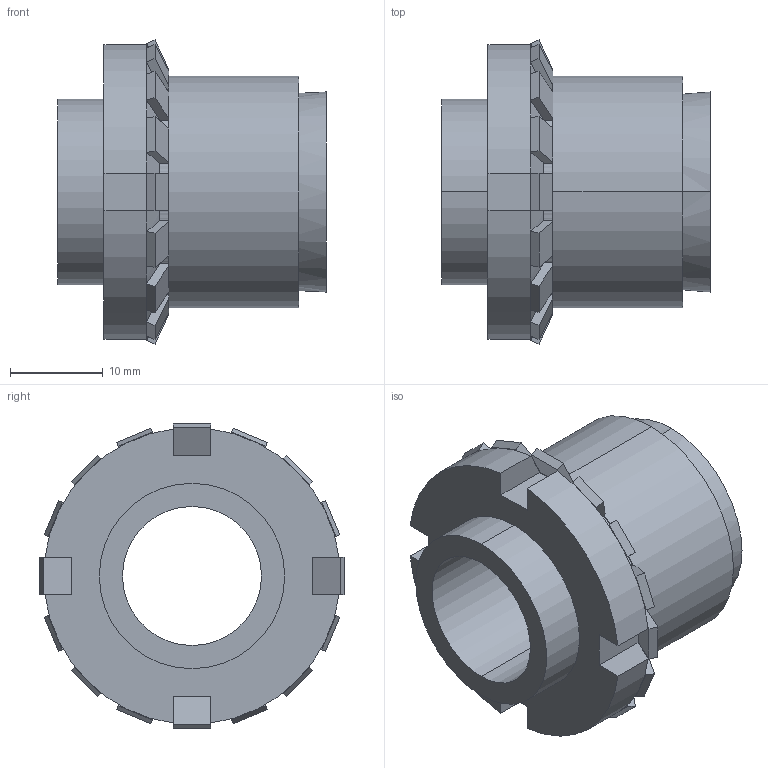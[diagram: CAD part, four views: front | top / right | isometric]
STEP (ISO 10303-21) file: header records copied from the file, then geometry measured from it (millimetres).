
FILE_DESCRIPTION (( 'STEP AP203' ), '1' );
FILE_NAME ('SI-15.STEP', '2009-09-29T17:26:18', ( 'USER' ), ( 'HOME' ), 'SwSTEP 2.0', 'SolidWorks 2007', '' );
FILE_SCHEMA (( 'CONFIG_CONTROL_DESIGN' ));
Length unit declared in the file: millimetre
Products named in the file (1): SI-15
Bounding box: 29 x 32.85 x 32.85 mm (x, y, z)
Volume: 12791.6 mm3; surface area: 17592 mm2
Topology: 19 solids, 19 shells, 232 faces, 574 edges, 380 vertices
Faces by surface type: plane 130, cylinder 94, cone 8
Entity records: 7043 total; most frequent: CARTESIAN_POINT 1235, DIRECTION 1220, ORIENTED_EDGE 1148, EDGE_CURVE 574, AXIS2_PLACEMENT_3D 429, VERTEX_POINT 380, LINE 362, VECTOR 362
